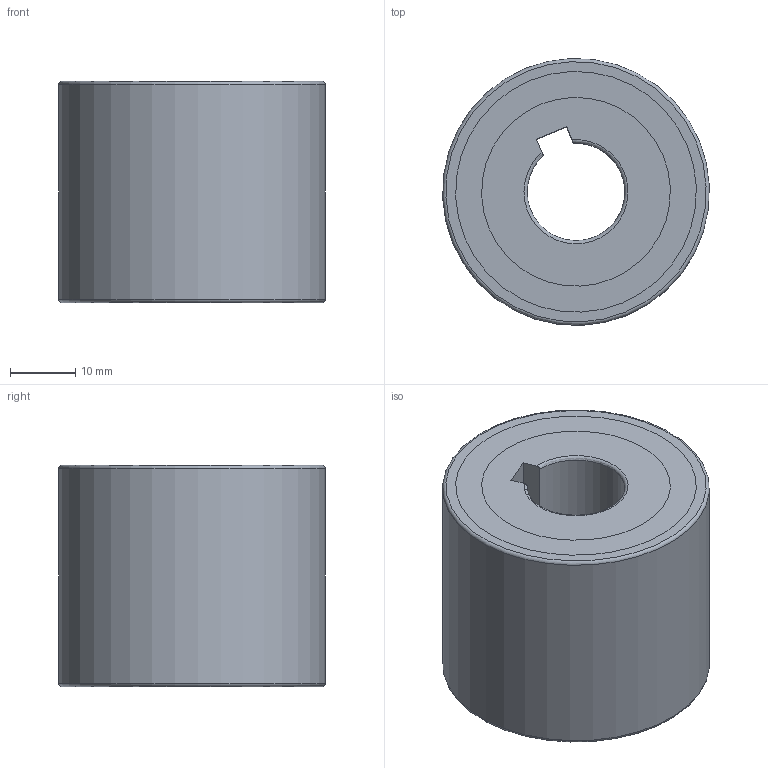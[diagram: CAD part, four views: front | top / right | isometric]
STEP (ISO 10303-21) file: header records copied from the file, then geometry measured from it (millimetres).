
FILE_DESCRIPTION(/* description */ (''),/* implementation_level */ '2;1');
FILE_NAME(/* name */ '300737 FND 437 M.stp',/* time_stamp */ '2016-11-17T09:36:01+01:00',/* author */ (''),/* organization */ (''),/* preprocessor_version */ 'ST-DEVELOPER v15',/* originating_system */ 'SIEMENS PLM Software NX 8.5',/* authorisation */ '');
FILE_SCHEMA (('CONFIG_CONTROL_DESIGN'));
Length unit declared in the file: millimetre
Products named in the file (3): ATE0000080_01; ATE0000091_01; ATE0000092_01
Assembly tree (2 placements, depth 2):
  ATE0000092_01
    ATE0000091_01
    ATE0000080_01
Bounding box: 40.96 x 40.96 x 34 mm (x, y, z)
Volume: 33231.2 mm3; surface area: 23312.8 mm2
Topology: 5 solids, 5 shells, 79 faces, 173 edges, 114 vertices
Faces by surface type: plane 49, cylinder 24, torus 6
Full cylindrical faces by diameter (mm): 29 x5, 33 x1, 35 x1, 36 x2, 37 x5, 41 x1
Entity records: 2408 total; most frequent: CARTESIAN_POINT 408, DIRECTION 374, ORIENTED_EDGE 292, AXIS2_PLACEMENT_3D 150, EDGE_CURVE 146, EDGE_LOOP 120, VERTEX_POINT 108, ADVANCED_FACE 79
